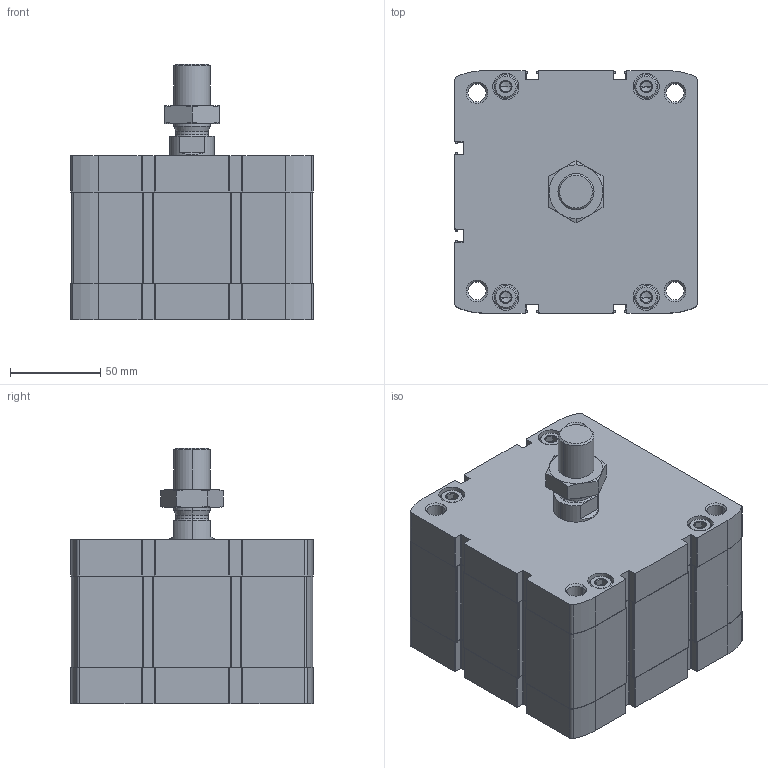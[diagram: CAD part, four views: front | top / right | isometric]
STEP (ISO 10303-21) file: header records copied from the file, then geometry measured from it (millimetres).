
FILE_DESCRIPTION (( 'STEP AP203' ), '1' );
FILE_NAME ('CCN125-10M.STEP', '2020-06-05T19:21:02', ( '' ), ( '' ), 'SwSTEP 2.0', 'SolidWorks 2019', '' );
FILE_SCHEMA (( 'CONFIG_CONTROL_DESIGN' ));
Length unit declared in the file: millimetre
Products named in the file (1): CCN125-10M
Bounding box: 134.6 x 134.6 x 142 mm (x, y, z)
Volume: 1478263.8 mm3; surface area: 196813.9 mm2
Topology: 3 solids, 3 shells, 555 faces, 1412 edges, 886 vertices
Faces by surface type: plane 275, cylinder 196, cone 80, torus 4
Entity records: 18163 total; most frequent: CARTESIAN_POINT 4452, DIRECTION 2966, ORIENTED_EDGE 2792, EDGE_CURVE 1396, AXIS2_PLACEMENT_3D 1092, VERTEX_POINT 886, LINE 782, VECTOR 782
